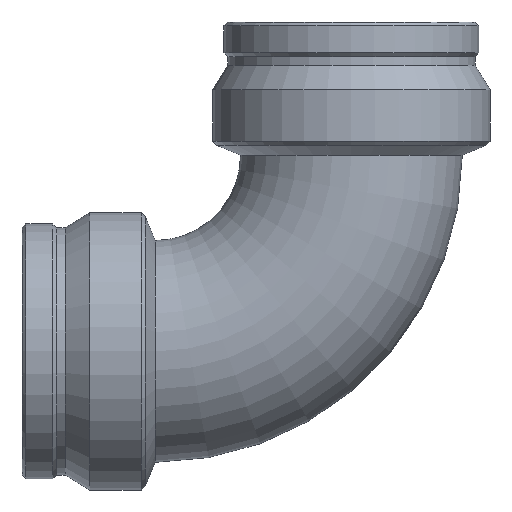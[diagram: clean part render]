
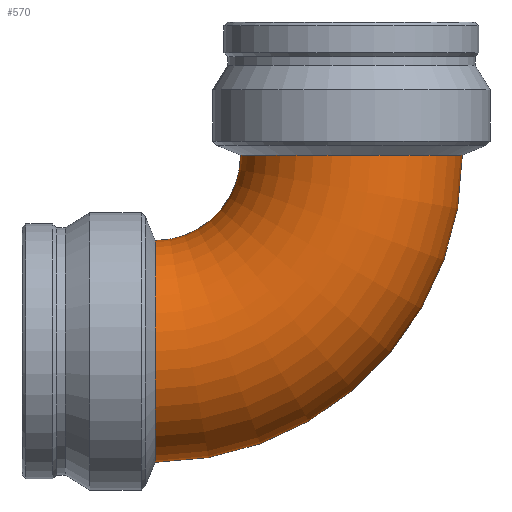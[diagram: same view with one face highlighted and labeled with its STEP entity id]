
A CAD part, front view. The second image highlights one B-rep face of the part: STEP entity #570.
In plain terms, the highlighted toroidal (fillet/blend) face has major radius 172.8 mm and minor radius 97.6 mm.
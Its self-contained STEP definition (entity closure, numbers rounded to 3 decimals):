
#130=FACE_OUTER_BOUND('',#172,.T.);
#172=EDGE_LOOP('',(#409,#410,#411,#412,#413,#414));
#228=CIRCLE('',#641,97.6);
#229=CIRCLE('',#642,97.6);
#230=CIRCLE('',#643,75.2);
#231=CIRCLE('',#644,97.6);
#232=CIRCLE('',#645,97.6);
#275=VERTEX_POINT('',#948);
#276=VERTEX_POINT('',#949);
#277=VERTEX_POINT('',#952);
#278=VERTEX_POINT('',#954);
#326=EDGE_CURVE('',#275,#276,#228,.T.);
#327=EDGE_CURVE('',#276,#275,#229,.T.);
#328=EDGE_CURVE('',#276,#277,#230,.T.);
#329=EDGE_CURVE('',#278,#277,#231,.T.);
#330=EDGE_CURVE('',#277,#278,#232,.T.);
#409=ORIENTED_EDGE('',*,*,#326,.F.);
#410=ORIENTED_EDGE('',*,*,#327,.F.);
#411=ORIENTED_EDGE('',*,*,#328,.T.);
#412=ORIENTED_EDGE('',*,*,#329,.F.);
#413=ORIENTED_EDGE('',*,*,#330,.F.);
#414=ORIENTED_EDGE('',*,*,#328,.F.);
#568=TOROIDAL_SURFACE('',#640,172.8,97.6);
#570=ADVANCED_FACE('',(#130),#568,.T.);
#640=AXIS2_PLACEMENT_3D('',#947,#738,#739);
#641=AXIS2_PLACEMENT_3D('',#950,#740,#741);
#642=AXIS2_PLACEMENT_3D('',#951,#742,#743);
#643=AXIS2_PLACEMENT_3D('',#953,#744,#745);
#644=AXIS2_PLACEMENT_3D('',#955,#746,#747);
#645=AXIS2_PLACEMENT_3D('',#956,#748,#749);
#738=DIRECTION('center_axis',(0.,-1.,0.));
#739=DIRECTION('ref_axis',(0.,0.,-1.));
#740=DIRECTION('center_axis',(0.,0.,
1.));
#741=DIRECTION('ref_axis',(0.,-1.,0.));
#742=DIRECTION('center_axis',(0.,0.,
1.));
#743=DIRECTION('ref_axis',(0.,-1.,0.));
#744=DIRECTION('center_axis',(0.,1.,0.));
#745=DIRECTION('ref_axis',(0.,0.,-1.));
#746=DIRECTION('center_axis',(-1.,0.,0.));
#747=DIRECTION('ref_axis',(0.,-1.,0.));
#748=DIRECTION('center_axis',(-1.,0.,0.));
#749=DIRECTION('ref_axis',(0.,-1.,0.));
#947=CARTESIAN_POINT('Origin',(-172.8,0.,172.8));
#948=CARTESIAN_POINT('',(0.,97.6,172.8));
#949=CARTESIAN_POINT('',(-97.6,0.,172.8));
#950=CARTESIAN_POINT('Origin',(0.,0.,
172.8));
#951=CARTESIAN_POINT('Origin',(0.,0.,
172.8));
#952=CARTESIAN_POINT('',(-172.8,0.,97.6));
#953=CARTESIAN_POINT('Origin',(-172.8,0.,172.8));
#954=CARTESIAN_POINT('',(-172.8,97.6,0.));
#955=CARTESIAN_POINT('Origin',(-172.8,0.,0.));
#956=CARTESIAN_POINT('Origin',(-172.8,0.,0.));
